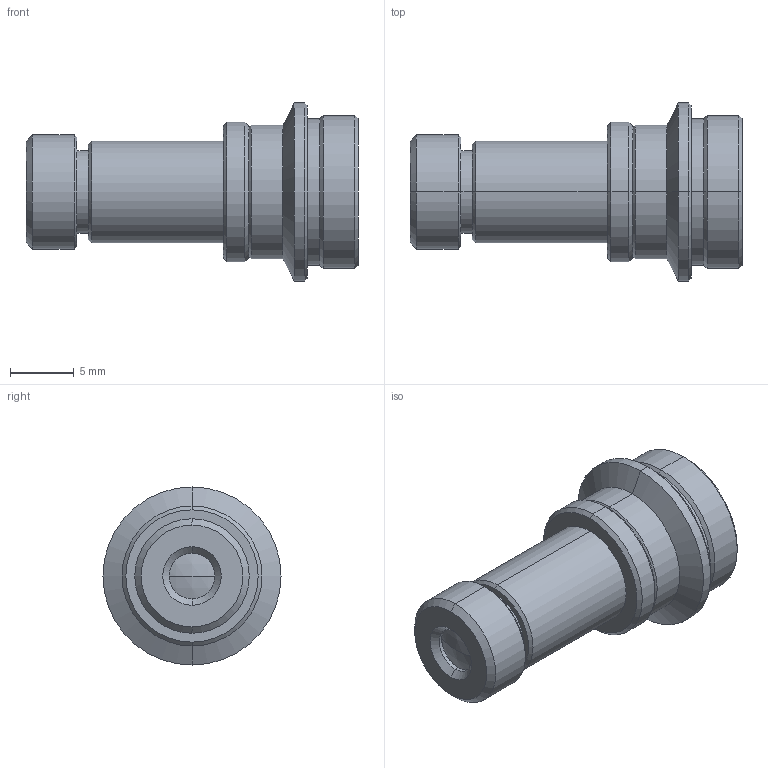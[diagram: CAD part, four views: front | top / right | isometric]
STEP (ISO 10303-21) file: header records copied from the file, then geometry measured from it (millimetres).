
FILE_DESCRIPTION (( 'STEP AP203' ), '1' );
FILE_NAME ('VS-MC0576N.STEP', '2020-04-09T02:25:15', ( '' ), ( '' ), 'SwSTEP 2.0', 'SolidWorks 2018', '' );
FILE_SCHEMA (( 'CONFIG_CONTROL_DESIGN' ));
Length unit declared in the file: millimetre
Products named in the file (1): VS-MC0576N
Bounding box: 26.09 x 14 x 14 mm (x, y, z)
Volume: 1455.4 mm3; surface area: 1442.9 mm2
Topology: 1 solids, 1 shells, 66 faces, 134 edges, 78 vertices
Faces by surface type: cone 30, cylinder 24, plane 8, sphere 4
Entity records: 1803 total; most frequent: DIRECTION 348, CARTESIAN_POINT 279, ORIENTED_EDGE 268, AXIS2_PLACEMENT_3D 147, EDGE_CURVE 134, CIRCLE 80, VERTEX_POINT 78, EDGE_LOOP 74
